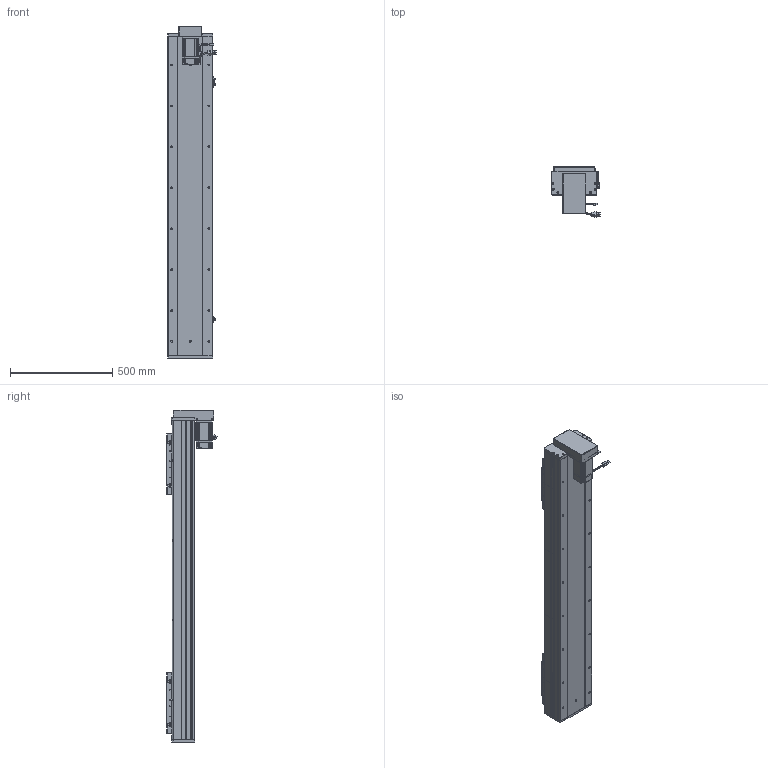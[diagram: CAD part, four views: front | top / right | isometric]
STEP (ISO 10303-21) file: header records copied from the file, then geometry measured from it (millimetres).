
FILE_DESCRIPTION (( 'STEP AP203' ), '1' );
FILE_NAME ('RY220F-L2525-300-BK.SLDASM_1150.step', '2022-07-04T01:20:59', ( '' ), ( '' ), 'SwSTEP 2.0', 'SolidWorks 2016', '' );
FILE_SCHEMA (( 'CONFIG_CONTROL_DESIGN' ));
Length unit declared in the file: millimetre
Products named in the file (15): RY220F-蛌殏奻裔啣-300_1150; RY220F-祥凄詩湍-蛌殏-300_1150; RY220F綴裔啣; 覜茼ん672; RY220F蛌殏菁釱-300_1150; 怢湛750W_ECMA-CX0807ES; RY220F-L2525-300-BK.SLDASM_1150; RY220F-滅鳥奻裔; RY220狟殏萇儂欶; 滅袉蝶18-24; RY220F-詩湍揤踡輸; RY220狟殏萇儂假蚾啣; 侐源滅袉蝶; RY220F-672覜茼んえ; RY220F臏賑釱25-32佪裝
Assembly tree (24 placements, depth 2):
  RY220F-L2525-300-BK.SLDASM_1150
    RY220F蛌殏菁釱-300_1150
    RY220F-蛌殏奻裔啣-300_1150  x2
    怢湛750W_ECMA-CX0807ES
    RY220F臏賑釱25-32佪裝  x2
    RY220F-滅鳥奻裔  x2
    滅袉蝶18-24  x3
    RY220F綴裔啣
    RY220F-祥凄詩湍-蛌殏-300_1150
    RY220F-詩湍揤踡輸  x2
    覜茼ん672  x3
    RY220F-672覜茼んえ  x2
    侐源滅袉蝶  x2
    RY220狟殏萇儂假蚾啣
    RY220狟殏萇儂欶
Bounding box: 237.27 x 247.24 x 1621 mm (x, y, z)
Volume: 15412961.7 mm3; surface area: 3987410 mm2
Topology: 25 solids, 25 shells, 2775 faces, 7542 edges, 4665 vertices
Faces by surface type: cylinder 1234, plane 1062, cone 408, bspline 45, sphere 16, torus 10
Entity records: 68809 total; most frequent: CARTESIAN_POINT 18683, ORIENTED_EDGE 10138, DIRECTION 9833, EDGE_CURVE 5069, AXIS2_PLACEMENT_3D 3482, VERTEX_POINT 3281, VECTOR 2869, LINE 2869
